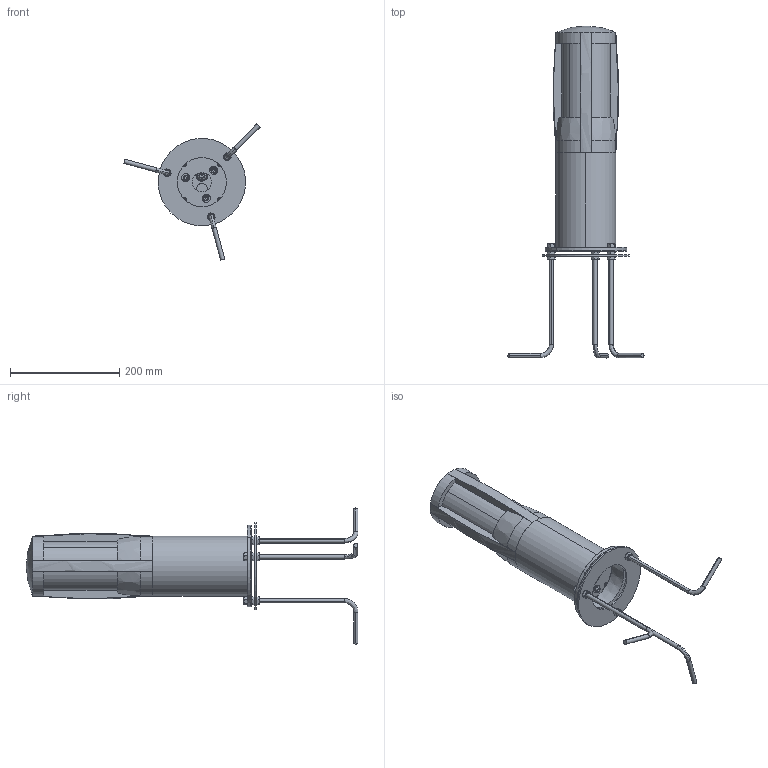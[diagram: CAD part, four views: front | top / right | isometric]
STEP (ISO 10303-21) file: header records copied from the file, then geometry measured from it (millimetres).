
FILE_DESCRIPTION((''),'2;1');
FILE_NAME('D9AR-412_ASM','2024-09-03T',('C028'),(''),'CREO PARAMETRIC BY PTC INC, 2014190','CREO PARAMETRIC BY PTC INC, 2014190','');
FILE_SCHEMA(('CONFIG_CONTROL_DESIGN'));
Products named in the file (34): 9AK-07GUDINGZUO_23_1; 3BU_13DIANYUANHE_4; 9AB-04DUDINGZUOFANGSHUIQUAN_4; 9AB-03DUDINGZUOHOUGAI_4; M4X12MM_3_1_1_2_2; PAD_1_135_2; FANGUANGSAI-1_1_135_2; FANGSHUISAI_1_135_2; PG9_ASM_1_ASM_135_ASM_2_ASM; PG9_ASM_2_ASM; 9AR-06TOUGUANGZHAODIZUO_12; 9AR-03_7; M3X501_1_6_9; 9AR-04_4; 9AD_8; 9AR-05TOUGUANZHAOSHANGGAI_4; 9AR-02_8; 2ISPINGDIAN_3; M3_20_5_2; 3DJMOZU_6; 4013-5; 9AD_ASM_19_ASM; 9AR-01SHANGGAI_9; 9AD-07_300_1_35; LI_BAN; 9AB_FA_LAN_PAN_56; M5-PIAN; M5-40; 9EE_A11_ASM_583_ASM; 9AB-11_4__ANY_; M8LUOMU_3__ANY_; 9AB-10_5__ANY_; 9ABDIZUO_AF5_ASM_333_ASM_1_ANY__ASM; D9AR-412_ASM
Assembly tree (60 placements, depth 5):
  D9AR-412_ASM
    9AD_ASM_19_ASM
      9AK-07GUDINGZUO_23_1
      3BU_13DIANYUANHE_4
      9AB-04DUDINGZUOFANGSHUIQUAN_4  x2
      9AB-03DUDINGZUOHOUGAI_4
      M4X12MM_3_1_1_2_2  x4
      PG9_ASM_2_ASM
        PG9_ASM_1_ASM_135_ASM_2_ASM
          PAD_1_135_2
          FANGUANGSAI-1_1_135_2
          FANGSHUISAI_1_135_2
      9AR-06TOUGUANGZHAODIZUO_12
      9AR-03_7
      M3X501_1_6_9  x2
      9AR-04_4
      9AD_8  x6
      9AR-05TOUGUANZHAOSHANGGAI_4
      9AR-02_8
      2ISPINGDIAN_3  x2
      M3_20_5_2
      3DJMOZU_6
      4013-5  x3
    9AR-01SHANGGAI_9
    9EE_A11_ASM_583_ASM
      9AD-07_300_1_35
      LI_BAN
      9AB_FA_LAN_PAN_56
      M5-PIAN  x3
      M5-40  x3
    9ABDIZUO_AF5_ASM_333_ASM_1_ANY__ASM
      9AB-11_4__ANY_  x3
      M8LUOMU_3__ANY_  x9
      9AB-10_5__ANY_
Bounding box: 248.96 x 607.35 x 248.96 mm (x, y, z)
Volume: 1487772.3 mm3; surface area: 797677.8 mm2
Topology: 55 solids, 55 shells, 2488 faces, 6831 edges, 4522 vertices
Faces by surface type: plane 1352, cylinder 567, cone 254, torus 156, bspline 120, sphere 22, extrusion 17
Entity records: 80435 total; most frequent: CARTESIAN_POINT 29551, ORIENTED_EDGE 10814, DIRECTION 10124, EDGE_CURVE 5407, VERTEX_POINT 3589, AXIS2_PLACEMENT_3D 3523, VECTOR 3078, LINE 3061
